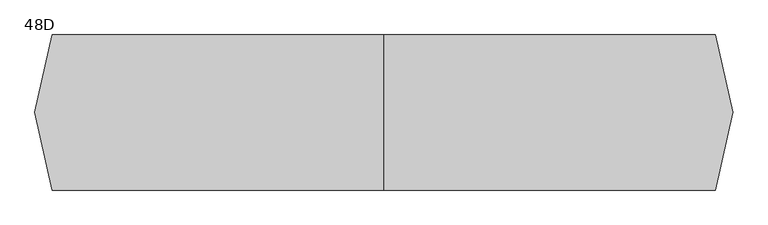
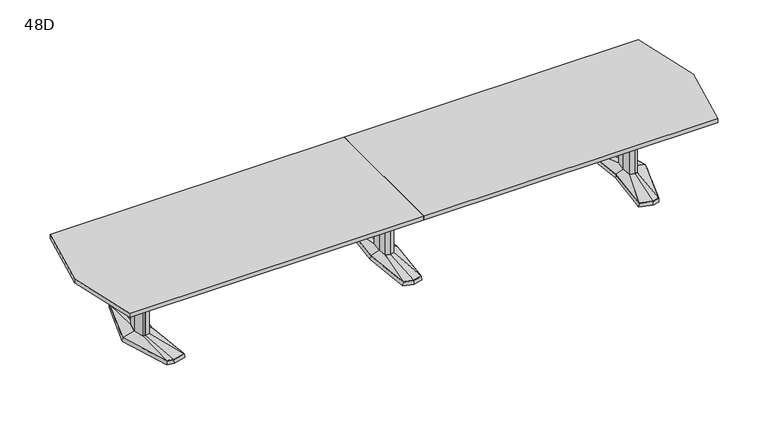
"""IFC4 building model written with IfcOpenShell, lengths in millimetres: furniture geometry, Coalesse_AM_Table_Conference_ETable2_Faceted_18ft_AluminiumBase : 48D."""

from ifc_helpers import new_model, si_unit, frame, origin, place, context, project, spatial, polyline, outline, extrude, faceted_brep, source, transform, mapped, element, save
from ifc_brep_helpers import plane_surface, spline_surface, advanced_brep


def furniture_48d_18b31c41(model_context):
    return source(origin(), model_context, "Body", "SolidModel", [
        faceted_brep([(-81.2333791, -433.8053819, 38.1), (0.0, -455.556576, 38.1), (81.2333791, -433.8053819, 38.1), (119.0564774, 0.0, 38.1), (81.2333791, 433.8053819, 38.1), (0.0, 455.556576, 38.1), (-81.2333791, 433.8053819, 38.1), (-119.0564774, 0.0, 38.1), (-82.7182795, -435.0512063, 3.175), (-120.65, 0.0, 3.175), (-82.7182795, 435.0512063, 3.175), (0.0, 457.2, 3.175), (82.7182795, 435.0512063, 3.175), (120.65, 0.0, 3.175), (82.7182795, -435.0512063, 3.175), (0.0, -457.2, 3.175), (0.0, 429.2617927, 3.175), (-77.9676806, 408.3850278, 3.175), (-74.7019821, 382.9646737, 3.175), (0.0, 402.9670094, 3.175), (74.7019821, 382.9646737, 3.175), (77.9676806, 408.3850278, 3.175), (0.0, -429.2617927, 3.175), (77.9676806, -408.3850278, 3.175), (74.7019821, -382.9646737, 3.175), (0.0, -402.9670094, 3.175), (-74.7019821, -382.9646737, 3.175), (-77.9676806, -408.3850278, 3.175), (-71.8574262, 114.6326257, 3.175), (-82.5426076, 0.0, 3.175), (-71.8574262, -114.6326257, 3.175), (0.0, -133.8761372, 3.175), (71.8574262, -114.6326257, 3.175), (82.5426076, 0.0, 3.175), (71.8574262, 114.6326257, 3.175), (0.0, 133.8761372, 3.175), (0.0, 429.2617927, 0.0), (77.9676806, 408.3850278, 0.0), (74.7019821, 382.9646737, 0.0), (0.0, 402.9670094, 0.0), (-74.7019821, 382.9646737, 0.0), (-77.9676806, 408.3850278, 0.0), (0.0, -429.2617927, 0.0), (-77.9676806, -408.3850278, 0.0), (-74.7019821, -382.9646737, 0.0), (0.0, -402.9670094, 0.0), (74.7019821, -382.9646737, 0.0), (77.9676806, -408.3850278, 0.0), (-71.8574262, 114.6326257, 0.0), (0.0, 133.8761372, 0.0), (71.8574262, 114.6326257, 0.0), (82.5426076, 0.0, 0.0), (71.8574262, -114.6326257, 0.0), (0.0, -133.8761372, 0.0), (-71.8574262, -114.6326257, 0.0), (-82.5426076, 0.0, 0.0)], [[[0, 1, 2, 3, 4, 5, 6, 7]], [[8, 9, 10, 11, 12, 13, 14, 15], [16, 17, 18, 19, 20, 21], [22, 23, 24, 25, 26, 27], [28, 29, 30, 31, 32, 33, 34, 35]], [[1, 0, 8, 15]], [[2, 1, 15, 14]], [[3, 2, 14, 13]], [[4, 3, 13, 12]], [[5, 4, 12, 11]], [[6, 5, 11, 10]], [[7, 6, 10, 9]], [[0, 7, 9, 8]], [[36, 37, 38, 39, 40, 41]], [[42, 43, 44, 45, 46, 47]], [[48, 49, 50, 51, 52, 53, 54, 55]], [[36, 41, 17, 16]], [[41, 40, 18, 17]], [[40, 39, 19, 18]], [[39, 38, 20, 19]], [[38, 37, 21, 20]], [[37, 36, 16, 21]], [[42, 47, 23, 22]], [[47, 46, 24, 23]], [[46, 45, 25, 24]], [[45, 44, 26, 25]], [[44, 43, 27, 26]], [[43, 42, 22, 27]], [[48, 55, 29, 28]], [[55, 54, 30, 29]], [[54, 53, 31, 30]], [[53, 52, 32, 31]], [[52, 51, 33, 32]], [[51, 50, 34, 33]], [[50, 49, 35, 34]], [[49, 48, 28, 35]]]),
        faceted_brep([(-36.3832834, 84.6900825, 698.5), (-44.2774487, 0.0, 698.5), (-36.3832834, -84.6900825, 698.5), (0.0, -94.4335728, 698.5), (36.3832834, -84.6900825, 698.5), (44.2774487, 0.0, 698.5), (36.3832834, 84.6900825, 698.5), (0.0, 94.4335728, 698.5), (-36.3832834, 84.6900825, 63.5), (0.0, 94.4335728, 63.5), (36.3832834, 84.6900825, 63.5), (44.2774487, 0.0, 63.5), (36.3832834, -84.6900825, 63.5), (0.0, -94.4335728, 63.5), (-36.3832834, -84.6900825, 63.5), (-44.2774487, 0.0, 63.5)], [[[0, 1, 2, 3, 4, 5, 6, 7]], [[8, 9, 10, 11, 12, 13, 14, 15]], [[1, 0, 8, 15]], [[2, 1, 15, 14]], [[3, 2, 14, 13]], [[4, 3, 13, 12]], [[5, 4, 12, 11]], [[6, 5, 11, 10]], [[7, 6, 10, 9]], [[0, 7, 9, 8]]]),
        advanced_brep(
        [(-36.3832834, 84.6900825, 63.5), (-44.2774487, 0.0, 63.5), (-36.3832834, -84.6900825, 63.5), (0.0, -94.4335728, 63.5), (36.3832834, -84.6900825, 63.5), (44.2774487, 0.0, 63.5), (36.3832834, 84.6900825, 63.5), (0.0, 94.4335728, 63.5), (-81.2333791, 433.8053819, 38.1), (0.0, 455.556576, 38.1), (81.2333791, 433.8053819, 38.1), (119.0564774, 0.0, 38.1), (81.2333791, -433.8053819, 38.1), (0.0, -455.556576, 38.1), (-81.2333791, -433.8053819, 38.1), (-119.0564774, 0.0, 38.1)],
        [
            (0, 1),
            (1, 2),
            (2, 3),
            (3, 4),
            (4, 5),
            (5, 6),
            (6, 7),
            (7, 0),
            (8, 9),
            (9, 10),
            (10, 11),
            (11, 12),
            (12, 13),
            (13, 14),
            (14, 15),
            (15, 8),
            (15, 1),
            (0, 8),
            (14, 2),
            (13, 3),
            (12, 4),
            (11, 5),
            (10, 6),
            (9, 7),
        ],
        [
            plane_surface(frame((0.0, 0.0, 63.5), z_axis=(0.0, 0.0, 1.0000000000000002), x_axis=(-0.9659615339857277, -0.25868574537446, 0.0))),
            plane_surface(frame((0.0, 0.0, 38.1), z_axis=(0.0, 0.0, -1.0000000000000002), x_axis=(-0.9659615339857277, -0.25868574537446, 0.0))),
            spline_surface(1, 1, [[(-81.2333791, 433.8053819, 38.1), (-36.3832834, 84.6900825, 63.5)], [(-119.0564774, 0.0, 38.1), (-44.2774487, 0.0, 63.5)]], [2, 2], [2, 2], [0.0, 1.0], [0.0, 1.0]),
            spline_surface(1, 1, [[(-119.0564774, 0.0, 38.1), (-44.2774487, 0.0, 63.5)], [(-81.2333791, -433.8053819, 38.1), (-36.3832834, -84.6900825, 63.5)]], [2, 2], [2, 2], [0.0, 1.0], [0.0, 1.0]),
            spline_surface(1, 1, [[(-81.2333791, -433.8053819, 38.1), (-36.3832834, -84.6900825, 63.5)], [(0.0, -455.556576, 38.1), (0.0, -94.4335728, 63.5)]], [2, 2], [2, 2], [0.0, 1.0], [0.0, 1.0]),
            spline_surface(1, 1, [[(0.0, -455.556576, 38.1), (0.0, -94.4335728, 63.5)], [(81.2333791, -433.8053819, 38.1), (36.3832834, -84.6900825, 63.5)]], [2, 2], [2, 2], [0.0, 1.0], [0.0, 1.0]),
            spline_surface(1, 1, [[(81.2333791, -433.8053819, 38.1), (36.3832834, -84.6900825, 63.5)], [(119.0564774, 0.0, 38.1), (44.2774487, 0.0, 63.5)]], [2, 2], [2, 2], [0.0, 1.0], [0.0, 1.0]),
            spline_surface(1, 1, [[(119.0564774, 0.0, 38.1), (44.2774487, 0.0, 63.5)], [(81.2333791, 433.8053819, 38.1), (36.3832834, 84.6900825, 63.5)]], [2, 2], [2, 2], [0.0, 1.0], [0.0, 1.0]),
            spline_surface(1, 1, [[(81.2333791, 433.8053819, 38.1), (36.3832834, 84.6900825, 63.5)], [(0.0, 455.556576, 38.1), (0.0, 94.4335728, 63.5)]], [2, 2], [2, 2], [0.0, 1.0], [0.0, 1.0]),
            spline_surface(1, 1, [[(0.0, 455.556576, 38.1), (0.0, 94.4335728, 63.5)], [(-81.2333791, 433.8053819, 38.1), (-36.3832834, 84.6900825, 63.5)]], [2, 2], [2, 2], [0.0, 1.0], [0.0, 1.0]),
        ],
        [
            (0, [[1, 2, 3, 4, 5, 6, 7, 8]]),
            (1, [[9, 10, 11, 12, 13, 14, 15, 16]]),
            (2, [[-16, 17, -1, 18]]),
            (3, [[-15, 19, -2, -17]]),
            (4, [[-14, 20, -3, -19]]),
            (5, [[-13, 21, -4, -20]]),
            (6, [[-12, 22, -5, -21]]),
            (7, [[-11, 23, -6, -22]]),
            (8, [[-10, 24, -7, -23]]),
            (9, [[-9, -18, -8, -24]]),
        ],
    ),
        faceted_brep([(2125.0306835, 455.5848221, 38.1), (2015.4531277, 426.2263816, 38.1), (2056.6163717, 0.0, 38.1), (2015.4531277, -426.2263816, 38.1), (2125.0306835, -455.5848221, 38.1), (2181.1570396, -440.5478297, 38.1), (2318.4684269, 0.0, 38.1), (2181.1570396, 440.5478297, 38.1), (2125.0306754, 457.2283104, 3.175), (2182.4124472, 441.8549756, 3.175), (2320.13125, 0.0, 3.175), (2182.4124472, -441.8549756, 3.175), (2125.0306754, -457.2283104, 3.175), (2013.74375, -427.4118891, 3.175), (2055.0214856, 0.0, 3.175), (2013.74375, 427.4118891, 3.175), (2128.620115, 428.3273875, 3.175), (2023.5718228, 402.1057253, 3.175), (2031.690518, 377.985069, 3.175), (2132.2095466, 401.0699529, 3.175), (2182.7691725, 387.524361, 3.175), (2181.9631061, 414.0360954, 3.175), (2128.620115, -428.3273875, 3.175), (2181.9631061, -414.0360954, 3.175), (2182.7691725, -387.524361, 3.175), (2132.2095466, -401.0699529, 3.175), (2031.690518, -377.985069, 3.175), (2023.5718228, -402.1057253, 3.175), (2255.2153621, 0.0, 3.175), (2222.9459611, 120.4193755, 3.175), (2174.2987222, 133.471665, 3.175), (2094.4180526, 119.4176561, 3.175), (2083.2868466, 0.0, 3.175), (2094.4180526, -119.4176561, 3.175), (2174.2987222, -133.471665, 3.175), (2222.9459611, -120.4193755, 3.175), (2128.620115, 428.3273875, 0.0), (2181.9631061, 414.0360954, 0.0), (2182.7691725, 387.524361, 0.0), (2132.2095466, 401.0699529, 0.0), (2031.690518, 377.985069, 0.0), (2023.5718228, 402.1057253, 0.0), (2128.620115, -428.3273875, 0.0), (2023.5718228, -402.1057253, 0.0), (2031.690518, -377.985069, 0.0), (2132.2095466, -401.0699529, 0.0), (2182.7691725, -387.524361, 0.0), (2181.9631061, -414.0360954, 0.0), (2255.2153621, 0.0, 0.0), (2222.9459611, -120.4193755, 0.0), (2174.2987222, -133.471665, 0.0), (2094.4180526, -119.4176561, 0.0), (2083.2868466, 0.0, 0.0), (2094.4180526, 119.4176561, 0.0), (2174.2987222, 133.471665, 0.0), (2222.9459611, 120.4193755, 0.0)], [[[0, 1, 2, 3, 4, 5, 6, 7]], [[8, 9, 10, 11, 12, 13, 14, 15], [16, 17, 18, 19, 20, 21], [22, 23, 24, 25, 26, 27], [28, 29, 30, 31, 32, 33, 34, 35]], [[7, 9, 8, 0]], [[6, 10, 9, 7]], [[5, 11, 10, 6]], [[4, 12, 11, 5]], [[3, 13, 12, 4]], [[2, 14, 13, 3]], [[1, 15, 14, 2]], [[0, 8, 15, 1]], [[36, 37, 38, 39, 40, 41]], [[42, 43, 44, 45, 46, 47]], [[48, 49, 50, 51, 52, 53, 54, 55]], [[36, 16, 21, 37]], [[37, 21, 20, 38]], [[38, 20, 19, 39]], [[39, 19, 18, 40]], [[40, 18, 17, 41]], [[41, 17, 16, 36]], [[42, 22, 27, 43]], [[43, 27, 26, 44]], [[44, 26, 25, 45]], [[45, 25, 24, 46]], [[46, 24, 23, 47]], [[47, 23, 22, 42]], [[48, 28, 35, 49]], [[49, 35, 34, 50]], [[50, 34, 33, 51]], [[51, 33, 32, 52]], [[52, 32, 31, 53]], [[53, 31, 30, 54]], [[54, 30, 29, 55]], [[55, 29, 28, 48]]]),
        faceted_brep([(2215.7710836, 0.0, 698.5), (2191.8358546, 89.3188359, 698.5), (2174.9824984, 93.8406728, 698.5), (2172.5826511, 94.4845635, 698.5), (2129.655146, 86.9320037, 698.5), (2121.5520056, 0.0, 698.5), (2129.655146, -86.9320037, 698.5), (2172.5826511, -94.4845635, 698.5), (2174.9824984, -93.8406728, 698.5), (2191.8358546, -89.3188359, 698.5), (2215.7710836, 0.0, 63.5), (2191.8358546, -89.3188359, 63.5), (2174.9824984, -93.8406728, 63.5), (2172.5826511, -94.4845635, 63.5), (2129.655146, -86.9320037, 63.5), (2121.5520056, 0.0, 63.5), (2129.655146, 86.9320037, 63.5), (2172.5826511, 94.4845635, 63.5), (2174.9824984, 93.8406728, 63.5), (2191.8358546, 89.3188359, 63.5)], [[[0, 1, 2, 3, 4, 5, 6, 7, 8, 9]], [[10, 11, 12, 13, 14, 15, 16, 17, 18, 19]], [[9, 11, 10, 0]], [[8, 12, 11, 9]], [[7, 13, 12, 8]], [[6, 14, 13, 7]], [[5, 15, 14, 6]], [[4, 16, 15, 5]], [[3, 17, 16, 4]], [[2, 18, 17, 3]], [[1, 19, 18, 2]], [[0, 10, 19, 1]]]),
        advanced_brep(
        [(2172.5826511, 94.4845635, 63.5), (2129.655146, 86.9320037, 63.5), (2121.5520056, 0.0, 63.5), (2129.655146, -86.9320037, 63.5), (2172.5826511, -94.4845635, 63.5), (2191.8358546, -89.3188359, 63.5), (2215.7710836, 0.0, 63.5), (2191.8358546, 89.3188359, 63.5), (2125.0306835, 455.5848221, 38.1), (2181.1570396, 440.5478297, 38.1), (2318.4684269, 0.0, 38.1), (2181.1570396, -440.5478297, 38.1), (2125.0306835, -455.5848221, 38.1), (2015.4531277, -426.2263816, 38.1), (2056.6163717, 0.0, 38.1), (2015.4531277, 426.2263816, 38.1)],
        [
            (0, 1),
            (1, 2),
            (2, 3),
            (3, 4),
            (4, 5),
            (5, 6),
            (6, 7),
            (7, 0),
            (8, 9),
            (9, 10),
            (10, 11),
            (11, 12),
            (12, 13),
            (13, 14),
            (14, 15),
            (15, 8),
            (8, 0),
            (7, 9),
            (6, 10),
            (5, 11),
            (4, 12),
            (3, 13),
            (2, 14),
            (1, 15),
        ],
        [
            plane_surface(frame((2165.6837991, 0.0, 63.5), z_axis=(0.0, 0.0, 1.0), x_axis=(-0.25884244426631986, -0.9659195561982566, 0.0))),
            plane_surface(frame((2127.2958125, 0.0, 38.1), z_axis=(0.0, 0.0, -1.0), x_axis=(-0.25884244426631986, -0.9659195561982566, 0.0))),
            spline_surface(1, 1, [[(2125.0306835, 455.5848221, 38.1), (2181.1570396, 440.5478297, 38.1)], [(2172.5826511, 94.4845635, 63.5), (2191.8358546, 89.3188359, 63.5)]], [2, 2], [2, 2], [0.0, 1.0], [0.0, 1.0]),
            spline_surface(1, 1, [[(2181.1570396, 440.5478297, 38.1), (2318.4684269, 0.0, 38.1)], [(2191.8358546, 89.3188359, 63.5), (2215.7710836, 0.0, 63.5)]], [2, 2], [2, 2], [0.0, 1.0], [0.0, 1.0]),
            spline_surface(1, 1, [[(2318.4684269, 0.0, 38.1), (2181.1570396, -440.5478297, 38.1)], [(2215.7710836, 0.0, 63.5), (2191.8358546, -89.3188359, 63.5)]], [2, 2], [2, 2], [0.0, 1.0], [0.0, 1.0]),
            spline_surface(1, 1, [[(2181.1570396, -440.5478297, 38.1), (2125.0306835, -455.5848221, 38.1)], [(2191.8358546, -89.3188359, 63.5), (2172.5826511, -94.4845635, 63.5)]], [2, 2], [2, 2], [0.0, 1.0], [0.0, 1.0]),
            spline_surface(1, 1, [[(2125.0306835, -455.5848221, 38.1), (2015.4531277, -426.2263816, 38.1)], [(2172.5826511, -94.4845635, 63.5), (2129.655146, -86.9320037, 63.5)]], [2, 2], [2, 2], [0.0, 1.0], [0.0, 1.0]),
            spline_surface(1, 1, [[(2015.4531277, -426.2263816, 38.1), (2056.6163717, 0.0, 38.1)], [(2129.655146, -86.9320037, 63.5), (2121.5520056, 0.0, 63.5)]], [2, 2], [2, 2], [0.0, 1.0], [0.0, 1.0]),
            spline_surface(1, 1, [[(2056.6163717, 0.0, 38.1), (2015.4531277, 426.2263816, 38.1)], [(2121.5520056, 0.0, 63.5), (2129.655146, 86.9320037, 63.5)]], [2, 2], [2, 2], [0.0, 1.0], [0.0, 1.0]),
            spline_surface(1, 1, [[(2015.4531277, 426.2263816, 38.1), (2125.0306835, 455.5848221, 38.1)], [(2129.655146, 86.9320037, 63.5), (2172.5826511, 94.4845635, 63.5)]], [2, 2], [2, 2], [0.0, 1.0], [0.0, 1.0]),
        ],
        [
            (0, [[1, 2, 3, 4, 5, 6, 7, 8]]),
            (1, [[9, 10, 11, 12, 13, 14, 15, 16]]),
            (2, [[17, -8, 18, -9]]),
            (3, [[-18, -7, 19, -10]]),
            (4, [[-19, -6, 20, -11]]),
            (5, [[-20, -5, 21, -12]]),
            (6, [[-21, -4, 22, -13]]),
            (7, [[-22, -3, 23, -14]]),
            (8, [[-23, -2, 24, -15]]),
            (9, [[-24, -1, -17, -16]]),
        ],
    ),
        faceted_brep([(-2125.0306835, 455.5848221, 38.1), (-2181.1570396, 440.5478297, 38.1), (-2318.4684269, 0.0, 38.1), (-2181.1570396, -440.5478297, 38.1), (-2125.0306835, -455.5848221, 38.1), (-2015.4531277, -426.2263816, 38.1), (-2056.6163717, 0.0, 38.1), (-2015.4531277, 426.2263816, 38.1), (-2125.0306754, 457.2283104, 3.175), (-2013.74375, 427.4118891, 3.175), (-2055.0214856, 0.0, 3.175), (-2013.74375, -427.4118891, 3.175), (-2125.0306754, -457.2283104, 3.175), (-2182.4124472, -441.8549756, 3.175), (-2320.13125, 0.0, 3.175), (-2182.4124472, 441.8549756, 3.175), (-2128.620115, 428.3273875, 3.175), (-2181.9631061, 414.0360954, 3.175), (-2182.7691725, 387.524361, 3.175), (-2132.2095466, 401.0699529, 3.175), (-2031.690518, 377.985069, 3.175), (-2023.5718228, 402.1057253, 3.175), (-2128.620115, -428.3273875, 3.175), (-2023.5718228, -402.1057253, 3.175), (-2031.690518, -377.985069, 3.175), (-2132.2095466, -401.0699529, 3.175), (-2182.7691725, -387.524361, 3.175), (-2181.9631061, -414.0360954, 3.175), (-2255.2153621, 0.0, 3.175), (-2222.9459611, -120.4193755, 3.175), (-2174.2987222, -133.471665, 3.175), (-2094.4180526, -119.4176561, 3.175), (-2083.2868466, 0.0, 3.175), (-2094.4180526, 119.4176561, 3.175), (-2174.2987222, 133.471665, 3.175), (-2222.9459611, 120.4193755, 3.175), (-2128.620115, 428.3273875, 0.0), (-2023.5718228, 402.1057253, 0.0), (-2031.690518, 377.985069, 0.0), (-2132.2095466, 401.0699529, 0.0), (-2182.7691725, 387.524361, 0.0), (-2181.9631061, 414.0360954, 0.0), (-2128.620115, -428.3273875, 0.0), (-2181.9631061, -414.0360954, 0.0), (-2182.7691725, -387.524361, 0.0), (-2132.2095466, -401.0699529, 0.0), (-2031.690518, -377.985069, 0.0), (-2023.5718228, -402.1057253, 0.0), (-2255.2153621, 0.0, 0.0), (-2222.9459611, 120.4193755, 0.0), (-2174.2987222, 133.471665, 0.0), (-2094.4180526, 119.4176561, 0.0), (-2083.2868466, 0.0, 0.0), (-2094.4180526, -119.4176561, 0.0), (-2174.2987222, -133.471665, 0.0), (-2222.9459611, -120.4193755, 0.0)], [[[0, 1, 2, 3, 4, 5, 6, 7]], [[8, 9, 10, 11, 12, 13, 14, 15], [16, 17, 18, 19, 20, 21], [22, 23, 24, 25, 26, 27], [28, 29, 30, 31, 32, 33, 34, 35]], [[1, 0, 8, 15]], [[2, 1, 15, 14]], [[3, 2, 14, 13]], [[4, 3, 13, 12]], [[5, 4, 12, 11]], [[6, 5, 11, 10]], [[7, 6, 10, 9]], [[0, 7, 9, 8]], [[36, 37, 38, 39, 40, 41]], [[42, 43, 44, 45, 46, 47]], [[48, 49, 50, 51, 52, 53, 54, 55]], [[36, 41, 17, 16]], [[41, 40, 18, 17]], [[40, 39, 19, 18]], [[39, 38, 20, 19]], [[38, 37, 21, 20]], [[37, 36, 16, 21]], [[42, 47, 23, 22]], [[47, 46, 24, 23]], [[46, 45, 25, 24]], [[45, 44, 26, 25]], [[44, 43, 27, 26]], [[43, 42, 22, 27]], [[48, 55, 29, 28]], [[55, 54, 30, 29]], [[54, 53, 31, 30]], [[53, 52, 32, 31]], [[52, 51, 33, 32]], [[51, 50, 34, 33]], [[50, 49, 35, 34]], [[49, 48, 28, 35]]]),
        faceted_brep([(-2215.7710836, 0.0, 698.5), (-2191.8358546, -89.3188359, 698.5), (-2174.9824984, -93.8406728, 698.5), (-2172.5826511, -94.4845635, 698.5), (-2129.655146, -86.9320037, 698.5), (-2121.5520056, 0.0, 698.5), (-2129.655146, 86.9320037, 698.5), (-2172.5826511, 94.4845635, 698.5), (-2174.9824984, 93.8406728, 698.5), (-2191.8358546, 89.3188359, 698.5), (-2215.7710836, 0.0, 63.5), (-2191.8358546, 89.3188359, 63.5), (-2174.9824984, 93.8406728, 63.5), (-2172.5826511, 94.4845635, 63.5), (-2129.655146, 86.9320037, 63.5), (-2121.5520056, 0.0, 63.5), (-2129.655146, -86.9320037, 63.5), (-2172.5826511, -94.4845635, 63.5), (-2174.9824984, -93.8406728, 63.5), (-2191.8358546, -89.3188359, 63.5)], [[[0, 1, 2, 3, 4, 5, 6, 7, 8, 9]], [[10, 11, 12, 13, 14, 15, 16, 17, 18, 19]], [[1, 0, 10, 19]], [[2, 1, 19, 18]], [[3, 2, 18, 17]], [[4, 3, 17, 16]], [[5, 4, 16, 15]], [[6, 5, 15, 14]], [[7, 6, 14, 13]], [[8, 7, 13, 12]], [[9, 8, 12, 11]], [[0, 9, 11, 10]]]),
        advanced_brep(
        [(-2172.5826511, 94.4845635, 63.5), (-2191.8358546, 89.3188359, 63.5), (-2215.7710836, 0.0, 63.5), (-2191.8358546, -89.3188359, 63.5), (-2172.5826511, -94.4845635, 63.5), (-2129.655146, -86.9320037, 63.5), (-2121.5520056, 0.0, 63.5), (-2129.655146, 86.9320037, 63.5), (-2125.0306835, 455.5848221, 38.1), (-2015.4531277, 426.2263816, 38.1), (-2056.6163717, 0.0, 38.1), (-2015.4531277, -426.2263816, 38.1), (-2125.0306835, -455.5848221, 38.1), (-2181.1570396, -440.5478297, 38.1), (-2318.4684269, 0.0, 38.1), (-2181.1570396, 440.5478297, 38.1)],
        [
            (0, 1),
            (1, 2),
            (2, 3),
            (3, 4),
            (4, 5),
            (5, 6),
            (6, 7),
            (7, 0),
            (8, 9),
            (9, 10),
            (10, 11),
            (11, 12),
            (12, 13),
            (13, 14),
            (14, 15),
            (15, 8),
            (15, 1),
            (0, 8),
            (14, 2),
            (13, 3),
            (12, 4),
            (11, 5),
            (10, 6),
            (9, 7),
        ],
        [
            plane_surface(frame((-2165.6837991, 0.0, 63.5), z_axis=(0.0, 0.0, 1.0), x_axis=(0.25884244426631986, -0.9659195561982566, 0.0))),
            plane_surface(frame((-2127.2958125, 0.0, 38.1), z_axis=(0.0, 0.0, -1.0), x_axis=(0.25884244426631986, -0.9659195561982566, 0.0))),
            spline_surface(1, 1, [[(-2125.0306835, 455.5848221, 38.1), (-2172.5826511, 94.4845635, 63.5)], [(-2181.1570396, 440.5478297, 38.1), (-2191.8358546, 89.3188359, 63.5)]], [2, 2], [2, 2], [0.0, 1.0], [0.0, 1.0]),
            spline_surface(1, 1, [[(-2181.1570396, 440.5478297, 38.1), (-2191.8358546, 89.3188359, 63.5)], [(-2318.4684269, 0.0, 38.1), (-2215.7710836, 0.0, 63.5)]], [2, 2], [2, 2], [0.0, 1.0], [0.0, 1.0]),
            spline_surface(1, 1, [[(-2318.4684269, 0.0, 38.1), (-2215.7710836, 0.0, 63.5)], [(-2181.1570396, -440.5478297, 38.1), (-2191.8358546, -89.3188359, 63.5)]], [2, 2], [2, 2], [0.0, 1.0], [0.0, 1.0]),
            spline_surface(1, 1, [[(-2181.1570396, -440.5478297, 38.1), (-2191.8358546, -89.3188359, 63.5)], [(-2125.0306835, -455.5848221, 38.1), (-2172.5826511, -94.4845635, 63.5)]], [2, 2], [2, 2], [0.0, 1.0], [0.0, 1.0]),
            spline_surface(1, 1, [[(-2125.0306835, -455.5848221, 38.1), (-2172.5826511, -94.4845635, 63.5)], [(-2015.4531277, -426.2263816, 38.1), (-2129.655146, -86.9320037, 63.5)]], [2, 2], [2, 2], [0.0, 1.0], [0.0, 1.0]),
            spline_surface(1, 1, [[(-2015.4531277, -426.2263816, 38.1), (-2129.655146, -86.9320037, 63.5)], [(-2056.6163717, 0.0, 38.1), (-2121.5520056, 0.0, 63.5)]], [2, 2], [2, 2], [0.0, 1.0], [0.0, 1.0]),
            spline_surface(1, 1, [[(-2056.6163717, 0.0, 38.1), (-2121.5520056, 0.0, 63.5)], [(-2015.4531277, 426.2263816, 38.1), (-2129.655146, 86.9320037, 63.5)]], [2, 2], [2, 2], [0.0, 1.0], [0.0, 1.0]),
            spline_surface(1, 1, [[(-2015.4531277, 426.2263816, 38.1), (-2129.655146, 86.9320037, 63.5)], [(-2125.0306835, 455.5848221, 38.1), (-2172.5826511, 94.4845635, 63.5)]], [2, 2], [2, 2], [0.0, 1.0], [0.0, 1.0]),
        ],
        [
            (0, [[1, 2, 3, 4, 5, 6, 7, 8]]),
            (1, [[9, 10, 11, 12, 13, 14, 15, 16]]),
            (2, [[-16, 17, -1, 18]]),
            (3, [[-15, 19, -2, -17]]),
            (4, [[-14, 20, -3, -19]]),
            (5, [[-13, 21, -4, -20]]),
            (6, [[-12, 22, -5, -21]]),
            (7, [[-11, 23, -6, -22]]),
            (8, [[-10, 24, -7, -23]]),
            (9, [[-9, -18, -8, -24]]),
        ],
    ),
        extrude(outline(polyline([(96.8375, 698.5), (103.1875, 698.5), (103.1875, 476.25), (-103.1875, 476.25), (-103.1875, 698.5), (-96.8375, 698.5), (-96.8375, 482.6), (96.8375, 482.6), (96.8375, 698.5)])), frame((44.2774487, 0.0, 0.0), z_axis=(1.0, 0.0, 0.0), x_axis=(0.0, 1.0, 0.0)), (0.0, 0.0, 1.0), 2077.4163013),
        extrude(outline(polyline([(2608.0541794, 609.6), (2743.2, 0.0), (2608.0541794, -609.6), (0.0, -609.6), (0.0, 609.6), (2608.0541794, 609.6)])), frame((0.0, 0.0, 698.5), z_axis=(0.0, 0.0, 1.0), x_axis=(1.0, 0.0, 0.0)), (0.0, 0.0, 1.0), 38.1),
        extrude(outline(polyline([(0.0, -609.6), (-2608.0541794, -609.6), (-2743.2, 0.0), (-2608.0541794, 609.6), (0.0, 609.6), (0.0, -609.6)])), frame((0.0, 0.0, 698.5), z_axis=(0.0, 0.0, 1.0), x_axis=(1.0, 0.0, 0.0)), (0.0, 0.0, 1.0), 38.1),
        extrude(outline(polyline([(96.8375, 698.5), (103.1875, 698.5), (103.1875, 476.25), (-103.1875, 476.25), (-103.1875, 698.5), (-96.8375, 698.5), (-96.8375, 482.6), (96.8375, 482.6), (96.8375, 698.5)])), frame((-2121.69375, 0.0, 0.0), z_axis=(1.0, 0.0, 0.0), x_axis=(0.0, 1.0, 0.0)), (0.0, 0.0, 1.0), 2077.4163013),
    ])


if __name__ == "__main__":
    model = new_model("IFC4")
    model_context = context("Model", 3, world=origin())
    ifc_project = project(units=[si_unit("LENGTHUNIT", "METRE", prefix="MILLI")], contexts=[model_context])
    site = spatial("IfcSite", under=ifc_project)
    building = spatial("IfcBuilding", under=site)
    placement = place(None, origin())
    furniture_48d_shape = furniture_48d_18b31c41(model_context)
    element("IfcFurniture", 1, ObjectType="Coalesse_AM_Table_Conference_ETable2_Faceted_18ft_AluminiumBase : 48D", at=placement, inside=building, context=model_context, shape_type="MappedRepresentation", body=[
        mapped(furniture_48d_shape, transform((0.0, 0.0, 0.0), x_axis=(1.0, 0.0, 0.0), y_axis=(0.0, 1.0, 0.0), z_axis=(0.0, 0.0, 1.0))),
    ])
    save(model, "model.ifc")
